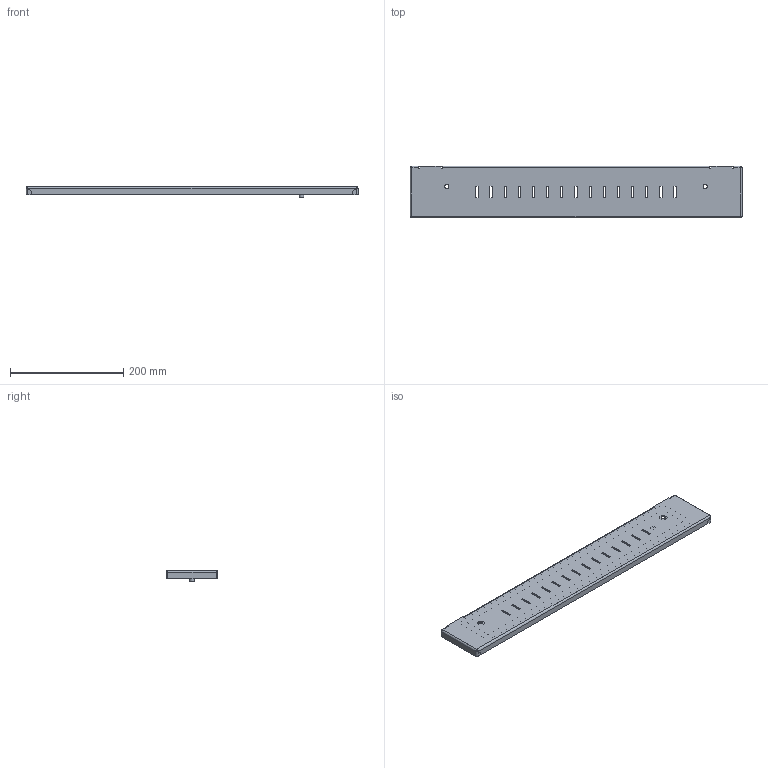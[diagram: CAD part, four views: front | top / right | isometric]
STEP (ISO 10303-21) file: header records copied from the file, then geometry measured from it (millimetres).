
FILE_DESCRIPTION(('STEP AP203'), '1');
FILE_NAME('Ïàíåëè êîìïåíñàöèîííûå ëèöåâûå ïåðôîðèðîâàííûå Â91õØ600 ìì OptiBox M (2 øò) 419554 ÊÝÀÇ', '', ('UNSPECIFIED'), ('UNSPECIFIED'), 'C3D Converter', 'C3D Toolkit', '');
FILE_SCHEMA(('CONFIG_CONTROL_DESIGN'));
Length unit declared in the file: millimetre
Bounding box: 586.4 x 91.5 x 18.9 mm (x, y, z)
Volume: 173414.6 mm3; surface area: 174820.5 mm2
Topology: 3 solids, 3 shells, 198 faces, 497 edges, 310 vertices
Faces by surface type: plane 147, cylinder 43, bspline 8
Full cylindrical faces by diameter (mm): 0.75 x1, 1 x1, 5 x2, 7.3 x2, 8 x1, 9.3 x1, 13 x1, 13.5 x2
Entity records: 8488 total; most frequent: CARTESIAN_POINT 2231, ORIENTED_EDGE 972, DIRECTION 886, EDGE_CURVE 486, LINE 396, VECTOR 396, VERTEX_POINT 310, EDGE_LOOP 254
